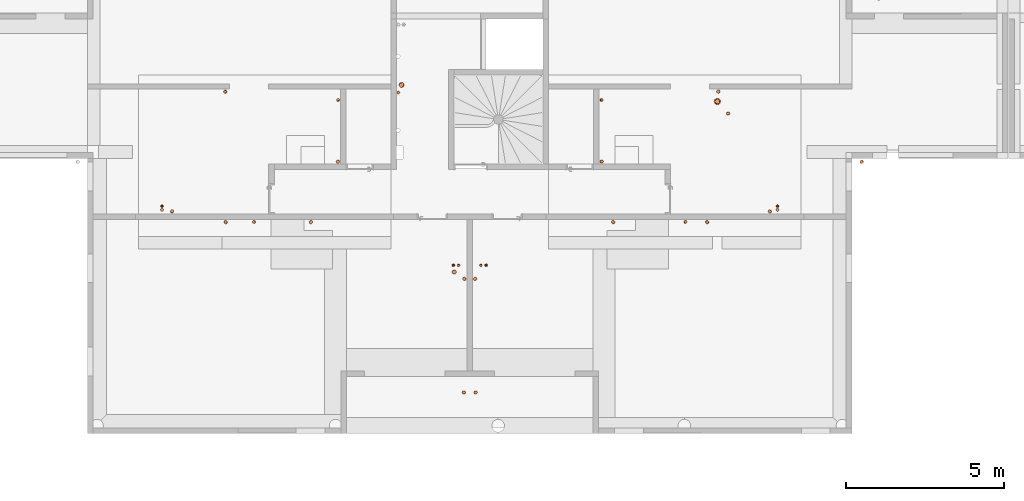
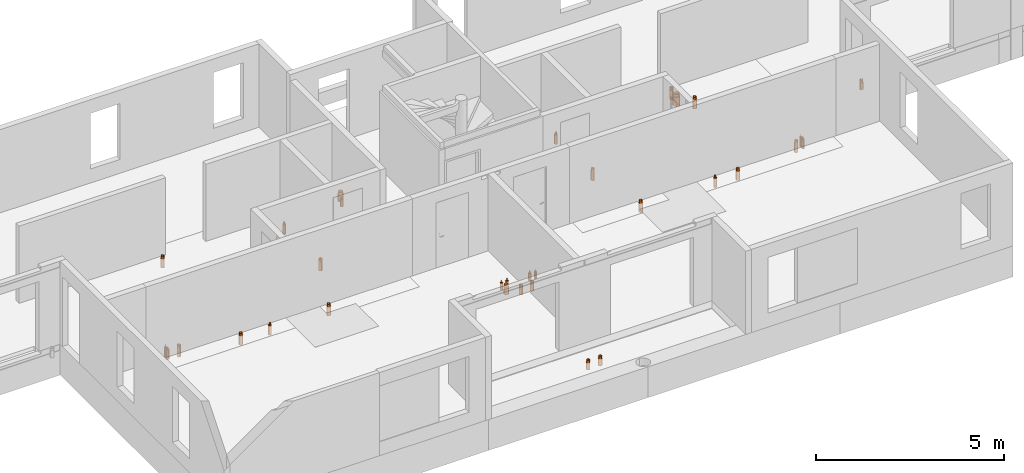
# One storey, part 30 of 34: 32 proxies.
"""IFC2X3 building model written with IfcOpenShell, lengths in centimetres."""

import ifcopenshell
import ifcopenshell.guid

model = None  # the IFC model being written
_history = None  # IfcOwnerHistory: only IFC2X3 demands one
_inside = {}  # id of a spatial element -> (the spatial element, [elements in it])
_under = {}  # id of a project, library or spatial element -> (it, [spatial elements below it])
_declared = {}  # id of a project -> (the project, [libraries it declares])
_typed = {}  # id of a type object -> (the type object, [elements of that type])
_made_of = {}  # id of a material, layer set ... -> (it, [elements and type objects made of it])


def new_model(schema):
    """Start an empty IFC model of exactly this schema.

    Asked for "IFC4X3", IfcOpenShell would pick the latest addendum, in which some entities
    have other attributes; the version numbers below select the first issue.
    IFC2X3 requires an IfcOwnerHistory on every rooted entity: one is made here for all.
    """
    global model, _history
    if schema == "IFC4X3":
        model = ifcopenshell.file(schema_version=(4, 3, 0, 0))
    else:
        model = ifcopenshell.file(schema=schema)
    _inside.clear()
    _under.clear()
    _declared.clear()
    _typed.clear()
    _made_of.clear()
    _history = None
    if model.schema == "IFC2X3":
        org = make("IfcOrganization", Name="unknown")
        user = make(
            "IfcPersonAndOrganization",
            ThePerson=make("IfcPerson", FamilyName="unknown"),
            TheOrganization=org,
        )
        app = make(
            "IfcApplication",
            ApplicationDeveloper=org,
            Version="unknown",
            ApplicationFullName="unknown",
            ApplicationIdentifier="unknown",
        )
        _history = make(
            "IfcOwnerHistory",
            OwningUser=user,
            OwningApplication=app,
            ChangeAction="ADDED",
            CreationDate=0,
        )
    return model


def make(cls, **values):
    """One entity of the class cls with the attributes given. An attribute that is None is left unset."""
    return model.create_entity(
        cls, **{name: value for name, value in values.items() if value is not None}
    )


def entity(cls, *values):
    """Any entity or typed value of the class cls, its attributes in the order of the schema. None: left unset."""
    e = model.create_entity(cls)
    for i, value in enumerate(values):
        if value is not None:
            e[i] = value
    return e


def rooted(cls, **values):
    """An entity with a GlobalId (a new one), such as an element, a storey or a relation."""
    return make(cls, GlobalId=ifcopenshell.guid.new(), OwnerHistory=_history, **values)


def si_unit(unit_type, name, prefix=None):
    """IfcSIUnit, for example si_unit("LENGTHUNIT", "METRE", prefix="MILLI")."""
    return make("IfcSIUnit", UnitType=unit_type, Prefix=prefix, Name=name)


def converted_unit(unit_type, name, factor, base, dimensions=None, offset=None):
    """IfcConversionBasedUnit, such as the inch: factor (a typed value) times the base unit."""
    return make(
        "IfcConversionBasedUnit"
        if offset is None
        else "IfcConversionBasedUnitWithOffset",
        ConversionOffset=offset,
        Dimensions=None
        if dimensions is None
        else entity("IfcDimensionalExponents", *dimensions),
        UnitType=unit_type,
        Name=name,
        ConversionFactor=make(
            "IfcMeasureWithUnit", ValueComponent=factor, UnitComponent=base
        ),
    )


def derived_unit(unit_type, elements):
    """IfcDerivedUnit: a product of units, each with its exponent."""
    return make(
        "IfcDerivedUnit",
        Elements=[
            make("IfcDerivedUnitElement", Unit=unit, Exponent=power)
            for unit, power in elements
        ],
        UnitType=unit_type,
    )


def assignment(units):
    """IfcUnitAssignment: the units of a project."""
    return None if units is None else make("IfcUnitAssignment", Units=units)


def point(xyz):
    """IfcCartesianPoint."""
    return None if xyz is None else make("IfcCartesianPoint", Coordinates=xyz)


def direction(xyz):
    """IfcDirection."""
    return None if xyz is None else make("IfcDirection", DirectionRatios=xyz)


def frame(location, z_axis=None, x_axis=None):
    """IfcAxis2Placement3D, a coordinate frame: its origin and axes. An axis left out is left unset."""
    return make(
        "IfcAxis2Placement3D",
        Location=point(location),
        Axis=direction(z_axis),
        RefDirection=direction(x_axis),
    )


def frame_2d(location, x_axis=None):
    """IfcAxis2Placement2D, a coordinate frame in the plane: its origin and x axis."""
    return make(
        "IfcAxis2Placement2D", Location=point(location), RefDirection=direction(x_axis)
    )


def origin():
    """The frame at (0, 0, 0) with its axes left unset."""
    return frame((0.0, 0.0, 0.0))


def place(relative_to, where):
    """IfcLocalPlacement: puts the frame where relative to a parent placement (None: the world)."""
    return make(
        "IfcLocalPlacement", PlacementRelTo=relative_to, RelativePlacement=where
    )


def context(
    kind, dimensions, precision=None, world=None, true_north=None, identifier=None
):
    """IfcGeometricRepresentationContext, for example the 3D "Model" context."""
    return make(
        "IfcGeometricRepresentationContext",
        ContextIdentifier=identifier,
        ContextType=kind,
        CoordinateSpaceDimension=dimensions,
        Precision=precision,
        WorldCoordinateSystem=world,
        TrueNorth=true_north,
    )


def subcontext(parent, identifier, kind, view, scale=None):
    """IfcGeometricRepresentationSubContext, for example "Body" below "Model"."""
    return make(
        "IfcGeometricRepresentationSubContext",
        ContextIdentifier=identifier,
        ContextType=kind,
        ParentContext=parent,
        TargetScale=scale,
        TargetView=view,
    )


def project(units=None, contexts=None):
    """IfcProject with its units and contexts."""
    return rooted(
        "IfcProject",
        Name="project",
        RepresentationContexts=contexts,
        UnitsInContext=assignment(units),
    )


def spatial(cls, under=None, at=None, **own):
    """A site, building, storey or space (cls), placed at a placement, below another one or the project."""
    s = rooted(cls, ObjectPlacement=at, **own)
    if under is not None:
        _under.setdefault(under.id(), (under, []))[1].append(s)
    return s


def profile(cls, at=None, kind="AREA", **sizes):
    """A parametric profile (cls). Its sizes go by their IFC names, for example OverallWidth=200.0."""
    return make(cls, ProfileType=kind, Position=at, **sizes)


def circle(**sizes):
    """IfcCircleProfileDef."""
    return profile("IfcCircleProfileDef", **sizes)


def hollow_circle(**sizes):
    """IfcCircleHollowProfileDef."""
    return profile("IfcCircleHollowProfileDef", **sizes)


def extrude(swept, where, along, depth):
    """IfcExtrudedAreaSolid: the profile swept, set in the frame where, extruded along a direction by depth."""
    return make(
        "IfcExtrudedAreaSolid",
        SweptArea=swept,
        Position=where,
        ExtrudedDirection=direction(along),
        Depth=depth,
    )


def shape(context_of_items, identifier, shape_type, items):
    """IfcShapeRepresentation: the items that make up one representation, for example the "Body"."""
    return make(
        "IfcShapeRepresentation",
        ContextOfItems=context_of_items,
        RepresentationIdentifier=identifier,
        RepresentationType=shape_type,
        Items=items,
    )


def source(mapping_origin, context_of_items, identifier, shape_type, items):
    """IfcRepresentationMap: a shape defined once, which mapped items show again and again."""
    return make(
        "IfcRepresentationMap",
        MappingOrigin=mapping_origin,
        MappedRepresentation=shape(context_of_items, identifier, shape_type, items),
    )


def transform(
    local_origin,
    x_axis=None,
    y_axis=None,
    z_axis=None,
    scale=None,
    scale2=None,
    scale3=None,
    uniform=True,
):
    """IfcCartesianTransformationOperator3D, or its non-uniform kind. x_axis, y_axis, z_axis: its Axis1, 2, 3."""
    if uniform:
        return make(
            "IfcCartesianTransformationOperator3D",
            Axis1=direction(x_axis),
            Axis2=direction(y_axis),
            LocalOrigin=point(local_origin),
            Scale=scale,
            Axis3=direction(z_axis),
        )
    return make(
        "IfcCartesianTransformationOperator3DnonUniform",
        Axis1=direction(x_axis),
        Axis2=direction(y_axis),
        LocalOrigin=point(local_origin),
        Scale=scale,
        Axis3=direction(z_axis),
        Scale2=scale2,
        Scale3=scale3,
    )


def mapped(mapping_source, mapping_target):
    """IfcMappedItem: shows the shape of a source again, moved by a transform."""
    return make(
        "IfcMappedItem", MappingSource=mapping_source, MappingTarget=mapping_target
    )


def material(Name=None, Category=None):
    """IfcMaterial."""
    return make("IfcMaterial", Name=Name, Category=Category)


def made_of(thing, what):
    """Note that an element or type object is made of a material, layer set ...; save() writes the relation."""
    if what is not None:
        _made_of.setdefault(what.id(), (what, []))[1].append(thing)
    return thing


def type_object(cls, material=None, **own):
    """A type object (cls), such as IfcWallType, which elements share."""
    return made_of(rooted(cls, **own), material)


def type_shapes(of_type, sources):
    """Give a type object the sources (RepresentationMaps) that its elements show as mapped items."""
    of_type.RepresentationMaps = sources


def element(
    cls,
    number,
    at=None,
    inside=None,
    cuts=None,
    type_object=None,
    material=None,
    context=None,
    identifier="Body",
    shape_type=None,
    held_by="IfcProductDefinitionShape",
    body=None,
    shapes=None,
    **own,
):
    """One element of the class cls, such as IfcWall. Its Tag is "e" and its number.

    at: its placement. inside: the storey or other place that contains it. cuts: it is an
    opening in that element (IfcRelVoidsElement). A single representation is given by context,
    identifier, shape_type and body (its items); several are given by shapes. held_by: the class
    of the entity that holds the representations. save() writes the other relations.
    """
    e = rooted(cls, Tag="e%d" % number, ObjectPlacement=at, **own)
    if body is not None:
        shapes = [shape(context, identifier, shape_type, body)]
    if shapes is not None:
        e.Representation = make(held_by, Representations=shapes)
    if inside is not None:
        _inside.setdefault(inside.id(), (inside, []))[1].append(e)
    if cuts is not None:
        rooted(
            "IfcRelVoidsElement", RelatingBuildingElement=cuts, RelatedOpeningElement=e
        )
    if type_object is not None:
        _typed.setdefault(type_object.id(), (type_object, []))[1].append(e)
    return made_of(e, material)


def aggregate(whole, parts):
    """IfcRelAggregates: a whole, such as a stair, and the parts it consists of."""
    return rooted("IfcRelAggregates", RelatingObject=whole, RelatedObjects=parts)


def save(model, path):
    """Write the relations noted so far, then the file.

    IfcRelAggregates (storeys below a building ...), IfcRelContainedInSpatialStructure (elements
    in a storey), IfcRelDefinesByType, IfcRelAssociatesMaterial and IfcRelDeclares: one each for
    every whole, place, type object, material and project.
    """
    for whole, parts in _under.values():
        aggregate(whole, parts)
    for where, things in _inside.values():
        rooted(
            "IfcRelContainedInSpatialStructure",
            RelatedElements=things,
            RelatingStructure=where,
        )
    for kind, things in _typed.values():
        rooted("IfcRelDefinesByType", RelatedObjects=things, RelatingType=kind)
    for what, things in _made_of.values():
        rooted("IfcRelAssociatesMaterial", RelatedObjects=things, RelatingMaterial=what)
    for by, libraries in _declared.values():
        rooted("IfcRelDeclares", RelatingContext=by, RelatedDefinitions=libraries)
    model.write(path)


model = new_model("IFC2X3")

# Units and contexts
model_context = context("Model", 3, precision=0.001, world=origin(), true_north=direction((6.12303176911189e-17, 1.0)))
body_context = subcontext(model_context, "Body", "Model", "MODEL_VIEW")
ifc_project = project(units=[si_unit("LENGTHUNIT", "METRE", prefix="CENTI"), si_unit("AREAUNIT", "SQUARE_METRE"), si_unit("VOLUMEUNIT", "CUBIC_METRE"), converted_unit("PLANEANGLEUNIT", "DEGREE", entity("IfcRatioMeasure", 0.0174532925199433), si_unit("PLANEANGLEUNIT", "RADIAN"), dimensions=[0, 0, 0, 0, 0, 0, 0]), si_unit("MASSUNIT", "GRAM", prefix="KILO"), derived_unit("MASSDENSITYUNIT", [(si_unit("MASSUNIT", "GRAM", prefix="KILO"), 1), (si_unit("LENGTHUNIT", "METRE"), -3)]), si_unit("TIMEUNIT", "SECOND"), si_unit("FREQUENCYUNIT", "HERTZ"), si_unit("THERMODYNAMICTEMPERATUREUNIT", "DEGREE_CELSIUS"), derived_unit("THERMALTRANSMITTANCEUNIT", [(si_unit("MASSUNIT", "GRAM", prefix="KILO"), 1), (si_unit("THERMODYNAMICTEMPERATUREUNIT", "KELVIN"), -1), (si_unit("TIMEUNIT", "SECOND"), -3)]), derived_unit("VOLUMETRICFLOWRATEUNIT", [(si_unit("LENGTHUNIT", "METRE"), 3), (si_unit("TIMEUNIT", "SECOND"), -1)]), si_unit("ELECTRICCURRENTUNIT", "AMPERE"), si_unit("ELECTRICVOLTAGEUNIT", "VOLT"), si_unit("POWERUNIT", "WATT"), si_unit("FORCEUNIT", "NEWTON"), si_unit("ILLUMINANCEUNIT", "LUX"), si_unit("LUMINOUSFLUXUNIT", "LUMEN"), si_unit("LUMINOUSINTENSITYUNIT", "CANDELA"), derived_unit("USERDEFINED", [(si_unit("MASSUNIT", "GRAM", prefix="KILO"), -1), (si_unit("LENGTHUNIT", "METRE"), -2), (si_unit("TIMEUNIT", "SECOND"), 3), (si_unit("LUMINOUSFLUXUNIT", "LUMEN"), 1)]), derived_unit("LINEARVELOCITYUNIT", [(si_unit("LENGTHUNIT", "METRE"), 1), (si_unit("TIMEUNIT", "SECOND"), -1)]), si_unit("PRESSUREUNIT", "PASCAL"), derived_unit("USERDEFINED", [(si_unit("LENGTHUNIT", "METRE"), -2), (si_unit("MASSUNIT", "GRAM", prefix="KILO"), 1), (si_unit("TIMEUNIT", "SECOND"), -2)])], contexts=[model_context])

# Site, building, storey
site_placement = place(None, origin())
site = spatial("IfcSite", under=ifc_project, at=site_placement, Name="Default", CompositionType="ELEMENT")
building_placement = place(site_placement, origin())
building = spatial("IfcBuilding", under=site, at=building_placement, Name="CAGE 03", CompositionType="ELEMENT")
storey_placement = place(building_placement, frame((0.0, 0.0, 340.0)))
storey = spatial("IfcBuildingStorey", under=building, at=storey_placement, Name="R+1", CompositionType="ELEMENT", Elevation=340.0)

# Proxies
ifc_material_1 = material(Name="Conduit EU")
building_element_proxy_type_1 = type_object("IfcBuildingElementProxyType", Name="EU 100", PredefinedType="NOTDEFINED", material=ifc_material_1)
shared_shape_1 = source(origin(), body_context, "Body", "SweptSolid", [
    extrude(circle(Radius=5.5, at=frame_2d((0.0, -8.88549515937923e-15), x_axis=(1.0, 0.0))), frame((0.0, 0.0, -23.0)), (0.0, 0.0, 1.0), 23.0),
    extrude(hollow_circle(Radius=5.0, WallThickness=0.25, at=frame_2d((0.0, -8.07772287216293e-15), x_axis=(1.0, 0.0))), frame((0.0, 0.0, -23.0)), (0.0, 0.0, 1.0), 30.5),
])
type_shapes(building_element_proxy_type_1, [shared_shape_1])
for number, where, name in (
    (1, (7064.36820144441, 4286.58794862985, -4.46999646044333e-07), "Galette - Résa - PVC:EU 100"),
    (2, (7098.36203043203, 4286.58671168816, -4.46999646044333e-07), "Galette - Résa - PVC:EU 100"),
):
    element("IfcBuildingElementProxy", number, at=place(storey_placement, frame(where)), inside=storey, type_object=building_element_proxy_type_1, material=ifc_material_1, Name=name, ObjectType="EU 100", context=body_context, shape_type="MappedRepresentation", body=[
        mapped(shared_shape_1, transform((0.0, 0.0, 0.0), scale=1.0)),
    ])
ifc_material_2 = material(Name="Conduit EP")
building_element_proxy_type_2 = type_object("IfcBuildingElementProxyType", Name="EP 100", PredefinedType="NOTDEFINED", material=ifc_material_2)
shared_shape_2 = source(origin(), body_context, "Body", "SweptSolid", [
    extrude(circle(Radius=5.5, at=frame_2d((0.0, -8.88549515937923e-15), x_axis=(1.0, 0.0))), frame((0.0, 0.0, -23.0)), (0.0, 0.0, 1.0), 23.0),
    extrude(hollow_circle(Radius=5.0, WallThickness=0.25, at=frame_2d((0.0, -8.07772287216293e-15), x_axis=(1.0, 0.0))), frame((0.0, 0.0, -23.0)), (0.0, 0.0, 1.0), 30.5),
])
type_shapes(building_element_proxy_type_2, [shared_shape_2])
for number, where, name in (
    (3, (8323.42330565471, 4657.37087061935, -4.46999646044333e-07), "Galette - Résa - PVC:EP 100"),
    (4, (7099.86906886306, 3926.65817576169, -25.0), "Galette - Résa - PVC:EP 100"),
    (5, (7062.86677989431, 3926.65818063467, -25.0), "Galette - Résa - PVC:EP 100"),
):
    element("IfcBuildingElementProxy", number, at=place(storey_placement, frame(where)), inside=storey, type_object=building_element_proxy_type_2, material=ifc_material_2, Name=name, ObjectType="EP 100", context=body_context, shape_type="MappedRepresentation", body=[
        mapped(shared_shape_2, transform((0.0, 0.0, 0.0), scale=1.0)),
    ])
building_element_proxy_type_3 = type_object("IfcBuildingElementProxyType", Name="EP 140", PredefinedType="NOTDEFINED", material=ifc_material_2)
shared_shape_3 = source(origin(), body_context, "Body", "SweptSolid", [
    extrude(circle(Radius=8.0, at=frame_2d((0.0, -1.29243565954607e-14), x_axis=(1.0, 0.0))), frame((0.0, 0.0, -23.0)), (0.0, 0.0, 1.0), 23.0),
    extrude(hollow_circle(Radius=7.0, WallThickness=0.25, at=frame_2d((0.0, -1.13088120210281e-14), x_axis=(1.0, 0.0))), frame((0.0, 0.0, -23.0)), (0.0, 0.0, 1.0), 30.5),
])
type_shapes(building_element_proxy_type_3, [shared_shape_3])
proxy_1_placement = place(storey_placement, frame((6865.50026930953, 4901.35358864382, -4.46999646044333e-07)))
element("IfcBuildingElementProxy", 6, at=proxy_1_placement, inside=storey, type_object=building_element_proxy_type_3, material=ifc_material_2, Name="Galette - Résa - PVC:EP 140", ObjectType="EP 140", context=body_context, shape_type="MappedRepresentation", body=[
    mapped(shared_shape_3, transform((0.0, 0.0, 0.0), scale=1.0)),
])
building_element_proxy_type_4 = type_object("IfcBuildingElementProxyType", Name="EU 100", PredefinedType="NOTDEFINED", material=ifc_material_1)
shared_shape_4 = source(origin(), body_context, "Body", "SweptSolid", [
    extrude(circle(Radius=5.5, at=frame_2d((0.0, -8.88549515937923e-15), x_axis=(1.0, 0.0))), frame((0.0, 0.0, -30.0)), (0.0, 0.0, 1.0), 30.0),
    extrude(hollow_circle(Radius=5.0, WallThickness=0.25, at=frame_2d((0.0, -8.07772287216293e-15), x_axis=(1.0, 0.0))), frame((0.0, 0.0, -30.0)), (0.0, 0.0, 1.0), 37.5),
])
type_shapes(building_element_proxy_type_4, [shared_shape_4])
for number, where, name in (
    (7, (7535.7788702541, 4466.34782251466, -4.46999646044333e-07), "Galette - Résa - PVC:EU 100"),
    (8, (6306.86254210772, 4879.61979162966, -4.46999646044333e-07), "Galette - Résa - PVC:EU 100"),
    (9, (6663.71171245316, 4658.39258907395, -4.46999646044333e-07), "Galette - Résa - PVC:EU 100"),
    (10, (7833.87693610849, 4466.32824123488, -4.46999646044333e-07), "Galette - Résa - PVC:EU 100"),
    (11, (7499.28939654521, 4658.66129597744, -4.46999646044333e-07), "Galette - Résa - PVC:EU 100"),
    (12, (6578.06172948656, 4466.40876231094, -4.46999646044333e-07), "Galette - Résa - PVC:EU 100"),
    (13, (6308.06009464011, 4466.34830104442, -4.46999646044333e-07), "Galette - Résa - PVC:EU 100"),
    (14, (7900.36170292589, 4810.74663032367, -4.46999646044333e-07), "Galette - Résa - PVC:EU 100"),
    (15, (6138.03665205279, 4500.34678045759, -4.46999646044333e-07), "Galette - Résa - PVC:EU 100"),
    (16, (8032.6158201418, 4500.32488712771, -4.46999646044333e-07), "Galette - Résa - PVC:EU 100"),
):
    element("IfcBuildingElementProxy", number, at=place(storey_placement, frame(where)), inside=storey, type_object=building_element_proxy_type_4, material=ifc_material_1, Name=name, ObjectType="EU 100", context=body_context, shape_type="MappedRepresentation", body=[
        mapped(shared_shape_4, transform((0.0, 0.0, 0.0), scale=1.0)),
    ])
building_element_proxy_type_5 = type_object("IfcBuildingElementProxyType", Name="EP 125", PredefinedType="NOTDEFINED", material=ifc_material_2)
shared_shape_5 = source(origin(), body_context, "Body", "SweptSolid", [
    extrude(circle(Radius=7.0, at=frame_2d((0.0, -1.13088120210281e-14), x_axis=(1.0, 0.0))), frame((0.0, 0.0, -23.0)), (0.0, 0.0, 1.0), 23.0),
    extrude(hollow_circle(Radius=6.25, WallThickness=0.25, at=frame_2d((0.0, -1.00971535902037e-14), x_axis=(1.0, 0.0))), frame((0.0, 0.0, -23.0)), (0.0, 0.0, 1.0), 30.5),
])
type_shapes(building_element_proxy_type_5, [shared_shape_5])
proxy_2_placement = place(storey_placement, frame((7031.86768929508, 4308.4720260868, -4.46999646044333e-07)))
element("IfcBuildingElementProxy", 17, at=proxy_2_placement, inside=storey, type_object=building_element_proxy_type_5, material=ifc_material_2, Name="Galette - Résa - PVC:EP 125", ObjectType="EP 125", context=body_context, shape_type="MappedRepresentation", body=[
    mapped(shared_shape_5, transform((0.0, 0.0, 0.0), scale=1.0)),
])
building_element_proxy_type_6 = type_object("IfcBuildingElementProxyType", Name="EU 50", PredefinedType="NOTDEFINED", material=ifc_material_1)
shared_shape_6 = source(origin(), body_context, "Body", "SweptSolid", [
    extrude(circle(Radius=5.0, at=frame_2d((0.0, -8.07772287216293e-15), x_axis=(1.0, 0.0))), frame((0.0, 0.0, -30.0)), (0.0, 0.0, 1.0), 30.0),
    extrude(hollow_circle(Radius=2.5, WallThickness=0.25, at=frame_2d((0.0, -4.03886143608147e-15), x_axis=(1.0, 0.0))), frame((0.0, 0.0, -30.0)), (0.0, 0.0, 1.0), 37.5),
])
type_shapes(building_element_proxy_type_6, [shared_shape_6])
for number, where, name in (
    (18, (6397.86638576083, 4467.30613386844, -4.46999646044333e-07), "Galette - Résa - PVC:EU 50"),
    (19, (7764.86638576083, 4467.30613386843, -4.46999646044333e-07), "Galette - Résa - PVC:EU 50"),
):
    element("IfcBuildingElementProxy", number, at=place(storey_placement, frame(where)), inside=storey, type_object=building_element_proxy_type_6, material=ifc_material_1, Name=name, ObjectType="EU 50", context=body_context, shape_type="MappedRepresentation", body=[
        mapped(shared_shape_6, transform((0.0, 0.0, 0.0), scale=1.0)),
    ])
for number, where, z_axis, x_axis, name in (
    (20, (6664.6717242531, 4853.35085765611, -4.46999591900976e-07), (0.0, 0.0, 1.0), (0.0, -1.0, 0.0), "Galette - Résa - PVC:EU 50"),
    (21, (7498.6717242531, 4853.35085765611, -4.46999591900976e-07), (0.0, 0.0, 1.0), (0.0, -1.0, 0.0), "Galette - Résa - PVC:EU 50"),
):
    element("IfcBuildingElementProxy", number, at=place(storey_placement, frame(where, z_axis=z_axis, x_axis=x_axis)), inside=storey, type_object=building_element_proxy_type_6, material=ifc_material_1, Name=name, ObjectType="EU 50", context=body_context, shape_type="MappedRepresentation", body=[
        mapped(shared_shape_6, transform((0.0, 0.0, 0.0), scale=1.0)),
    ])
building_element_proxy_type_7 = type_object("IfcBuildingElementProxyType", Name="EP 100", PredefinedType="NOTDEFINED", material=ifc_material_2)
shared_shape_7 = source(origin(), body_context, "Body", "SweptSolid", [
    extrude(circle(Radius=5.5, at=frame_2d((0.0, -8.88549515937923e-15), x_axis=(1.0, 0.0))), frame((0.0, 0.0, -30.0)), (0.0, 0.0, 1.0), 30.0),
    extrude(hollow_circle(Radius=5.0, WallThickness=0.25, at=frame_2d((0.0, -8.07772287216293e-15), x_axis=(1.0, 0.0))), frame((0.0, 0.0, -30.0)), (0.0, 0.0, 1.0), 37.5),
])
type_shapes(building_element_proxy_type_7, [shared_shape_7])
proxy_3_placement = place(storey_placement, frame((7869.14720305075, 4880.10916521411, -4.46999646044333e-07)))
element("IfcBuildingElementProxy", 22, at=proxy_3_placement, inside=storey, type_object=building_element_proxy_type_7, material=ifc_material_2, Name="Galette - Résa - PVC:EP 100", ObjectType="EP 100", context=body_context, shape_type="MappedRepresentation", body=[
    mapped(shared_shape_7, transform((0.0, 0.0, 0.0), scale=1.0)),
])
ifc_material_3 = material(Name="Conduit VMC")
building_element_proxy_type_8 = type_object("IfcBuildingElementProxyType", Name="VMC 160", PredefinedType="NOTDEFINED", material=ifc_material_3)
shared_shape_8 = source(origin(), body_context, "Body", "SweptSolid", [
    extrude(circle(Radius=10.0, at=frame_2d((0.0, -1.61554457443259e-14), x_axis=(1.0, 0.0))), frame((0.0, 0.0, -30.0)), (0.0, 0.0, 1.0), 30.0),
    extrude(hollow_circle(Radius=8.0, WallThickness=0.500000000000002, at=frame_2d((0.0, -1.29243565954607e-14), x_axis=(1.0, 0.0))), frame((0.0, 0.0, -30.0)), (0.0, 0.0, 1.0), 37.5),
])
type_shapes(building_element_proxy_type_8, [shared_shape_8])
proxy_4_placement = place(storey_placement, frame((7866.12110627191, 4848.9015173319, -4.46999646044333e-07)))
element("IfcBuildingElementProxy", 23, at=proxy_4_placement, inside=storey, type_object=building_element_proxy_type_8, material=ifc_material_3, Name="Galette - Résa - PVC:VMC 160", ObjectType="VMC 160", context=body_context, shape_type="MappedRepresentation", body=[
    mapped(shared_shape_8, transform((0.0, 0.0, 0.0), scale=1.0)),
])
ifc_material_4 = material(Name="Circuit EF")
building_element_proxy_type_9 = type_object("IfcBuildingElementProxyType", Name="EF 40", PredefinedType="NOTDEFINED", material=ifc_material_4)
shared_shape_9 = source(origin(), body_context, "Body", "SweptSolid", [
    extrude(circle(Radius=4.5, at=frame_2d((0.0, -7.26995058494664e-15), x_axis=(1.0, 0.0))), frame((0.0, 0.0, -23.0)), (0.0, 0.0, 1.0), 23.0),
    extrude(hollow_circle(Radius=2.2, WallThickness=0.449999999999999, at=frame_2d((0.0, -3.55419806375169e-15), x_axis=(1.0, 0.0))), frame((0.0, 0.0, -23.0)), (0.0, 0.0, 1.0), 30.5),
])
type_shapes(building_element_proxy_type_9, [shared_shape_9])
proxy_5_placement = place(storey_placement, frame((6855.36638671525, 4877.15864997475, -4.46999646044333e-07)))
element("IfcBuildingElementProxy", 24, at=proxy_5_placement, inside=storey, type_object=building_element_proxy_type_9, material=ifc_material_4, Name="Galette - Résa - PVC:EF 40", ObjectType="EF 40", context=body_context, shape_type="MappedRepresentation", body=[
    mapped(shared_shape_9, transform((0.0, 0.0, 0.0), scale=1.0)),
])
ifc_material_5 = material(Name="Circuit ECS Aller")
building_element_proxy_type_10 = type_object("IfcBuildingElementProxyType", Name="ECS Aller 32", PredefinedType="NOTDEFINED", material=ifc_material_5)
shared_shape_10 = source(origin(), body_context, "Body", "SweptSolid", [
    extrude(circle(Radius=4.5, at=frame_2d((0.0, -7.26995058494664e-15), x_axis=(1.0, 0.0))), frame((0.0, 0.0, -23.0)), (0.0, 0.0, 1.0), 23.0),
    extrude(hollow_circle(Radius=1.6, WallThickness=0.05, at=frame_2d((0.0, -2.58487131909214e-15), x_axis=(1.0, 0.0))), frame((0.0, 0.0, -23.0)), (0.0, 0.0, 1.0), 30.5),
])
type_shapes(building_element_proxy_type_10, [shared_shape_10])
for number, where, name in (
    (25, (7046.26768929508, 4329.86526421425, -4.46999646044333e-07), "Galette - Résa - PVC:ECS Aller 32"),
    (26, (7116.44860425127, 4329.86526421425, -4.46999646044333e-07), "Galette - Résa - PVC:ECS Aller 32"),
):
    element("IfcBuildingElementProxy", number, at=place(storey_placement, frame(where)), inside=storey, type_object=building_element_proxy_type_10, material=ifc_material_5, Name=name, ObjectType="ECS Aller 32", context=body_context, shape_type="MappedRepresentation", body=[
        mapped(shared_shape_10, transform((0.0, 0.0, 0.0), scale=1.0)),
    ])
ifc_material_6 = material(Name="Circuit ECS Retour")
building_element_proxy_type_11 = type_object("IfcBuildingElementProxyType", Name="ECS Retour 20", PredefinedType="NOTDEFINED", material=ifc_material_6)
shared_shape_11 = source(origin(), body_context, "Body", "SweptSolid", [
    extrude(circle(Radius=4.0, at=frame_2d((0.0, -6.46217829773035e-15), x_axis=(1.0, 0.0))), frame((0.0, 0.0, -23.0)), (0.0, 0.0, 1.0), 23.0),
    extrude(hollow_circle(Radius=1.0, WallThickness=0.0500000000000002, at=frame_2d((0.0, -1.61554457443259e-15), x_axis=(1.0, 0.0))), frame((0.0, 0.0, -23.0)), (0.0, 0.0, 1.0), 30.5),
])
type_shapes(building_element_proxy_type_11, [shared_shape_11])
for number, where, name in (
    (27, (7133.44860425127, 4329.86526421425, -4.46999646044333e-07), "Galette - Résa - PVC:ECS Retour 20"),
    (28, (7029.26768929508, 4329.86526421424, -4.46999646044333e-07), "Galette - Résa - PVC:ECS Retour 20"),
):
    element("IfcBuildingElementProxy", number, at=place(storey_placement, frame(where)), inside=storey, type_object=building_element_proxy_type_11, material=ifc_material_6, Name=name, ObjectType="ECS Retour 20", context=body_context, shape_type="MappedRepresentation", body=[
        mapped(shared_shape_11, transform((0.0, 0.0, 0.0), scale=1.0)),
    ])
building_element_proxy_type_12 = type_object("IfcBuildingElementProxyType", Name="ECS Aller 32", PredefinedType="NOTDEFINED", material=ifc_material_5)
shared_shape_12 = source(origin(), body_context, "Body", "SweptSolid", [
    extrude(circle(Radius=4.5, at=frame_2d((0.0, -7.26995058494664e-15), x_axis=(1.0, 0.0))), frame((0.0, 0.0, -30.0)), (0.0, 0.0, 1.0), 30.0),
    extrude(hollow_circle(Radius=1.6, WallThickness=0.05, at=frame_2d((0.0, -2.58487131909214e-15), x_axis=(1.0, 0.0))), frame((0.0, 0.0, -30.0)), (0.0, 0.0, 1.0), 37.5),
])
type_shapes(building_element_proxy_type_12, [shared_shape_12])
for number, where, name in (
    (29, (8056.54479855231, 4505.23903904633, -4.46999646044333e-07), "Galette - Résa - PVC:ECS Aller 32"),
    (30, (6106.22273629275, 4505.23903904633, -4.46999646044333e-07), "Galette - Résa - PVC:ECS Aller 32"),
):
    element("IfcBuildingElementProxy", number, at=place(storey_placement, frame(where)), inside=storey, type_object=building_element_proxy_type_12, material=ifc_material_5, Name=name, ObjectType="ECS Aller 32", context=body_context, shape_type="MappedRepresentation", body=[
        mapped(shared_shape_12, transform((0.0, 0.0, 0.0), scale=1.0)),
    ])
building_element_proxy_type_13 = type_object("IfcBuildingElementProxyType", Name="ECS Retour 20", PredefinedType="NOTDEFINED", material=ifc_material_6)
shared_shape_13 = source(origin(), body_context, "Body", "SweptSolid", [
    extrude(circle(Radius=4.0, at=frame_2d((0.0, -6.46217829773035e-15), x_axis=(1.0, 0.0))), frame((0.0, 0.0, -30.0)), (0.0, 0.0, 1.0), 30.0),
    extrude(hollow_circle(Radius=1.0, WallThickness=0.0500000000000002, at=frame_2d((0.0, -1.61554457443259e-15), x_axis=(1.0, 0.0))), frame((0.0, 0.0, -30.0)), (0.0, 0.0, 1.0), 37.5),
])
type_shapes(building_element_proxy_type_13, [shared_shape_13])
for number, where, name in (
    (31, (8056.54479855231, 4517.07558993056, -4.46999646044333e-07), "Galette - Résa - PVC:ECS Retour 20"),
    (32, (6106.22273629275, 4517.07558993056, -4.46999646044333e-07), "Galette - Résa - PVC:ECS Retour 20"),
):
    element("IfcBuildingElementProxy", number, at=place(storey_placement, frame(where)), inside=storey, type_object=building_element_proxy_type_13, material=ifc_material_6, Name=name, ObjectType="ECS Retour 20", context=body_context, shape_type="MappedRepresentation", body=[
        mapped(shared_shape_13, transform((0.0, 0.0, 0.0), scale=1.0)),
    ])

save(model, "model.ifc")
